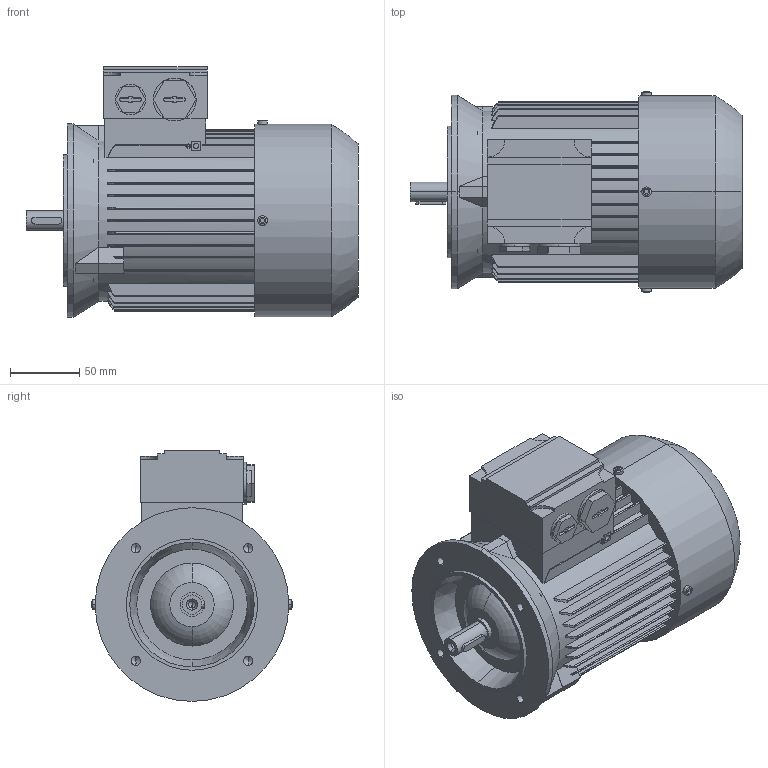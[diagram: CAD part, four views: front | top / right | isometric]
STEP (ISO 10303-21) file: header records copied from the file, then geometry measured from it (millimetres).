
FILE_DESCRIPTION (( 'STEP AP214' ), '1' );
FILE_NAME ('5RN71M06E22 IM3641-B FT115.STEP', '2022-08-02T07:05:04', ( '' ), ( '' ), 'SwSTEP 2.0', 'SolidWorks 2021', '' );
FILE_SCHEMA (( 'AUTOMOTIVE_DESIGN' ));
Length unit declared in the file: millimetre
Products named in the file (1): 5RN71M06E22 IM3641-B FT115
Bounding box: 240 x 145 x 181.29 mm (x, y, z)
Volume: 2899379.5 mm3; surface area: 190511.4 mm2
Topology: 7 solids, 7 shells, 474 faces, 1279 edges, 829 vertices
Faces by surface type: plane 278, cylinder 136, torus 34, cone 26
Entity records: 16502 total; most frequent: CARTESIAN_POINT 4303, ORIENTED_EDGE 2538, DIRECTION 2455, EDGE_CURVE 1269, AXIS2_PLACEMENT_3D 850, VERTEX_POINT 829, VECTOR 755, LINE 755
